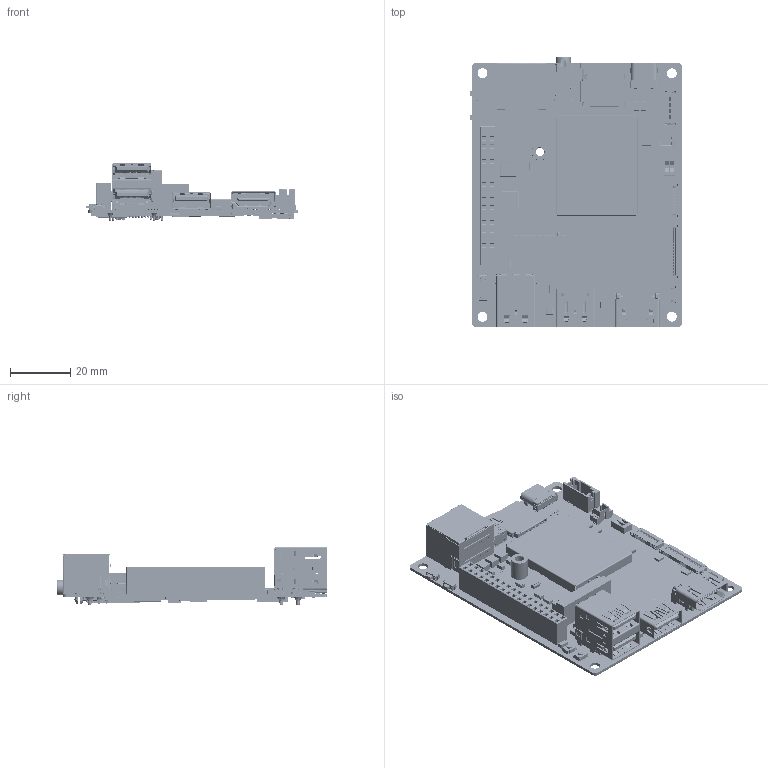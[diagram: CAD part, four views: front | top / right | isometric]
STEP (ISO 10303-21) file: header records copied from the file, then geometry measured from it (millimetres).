
FILE_DESCRIPTION(/* description */ (''),/* implementation_level */ '2;1');
FILE_NAME(/* name */ 'LattePanda IOTA Mainboard Simplified.step',/* time_stamp */ '2026-02-12T21:35:30-05:00',/* author */ (''),/* organization */ (''),/* preprocessor_version */ 'ST-DEVELOPER v20.1',/* originating_system */ 'Autodesk Translation Framework v14.24.0.0',/* authorisation */ '');
FILE_SCHEMA (('AUTOMOTIVE_DESIGN { 1 0 10303 214 3 1 1 }'));
Products named in the file (1): Document
Bounding box: 70.76 x 90 x 19.39 mm (x, y, z)
Surface area: 39761.1 mm2
Topology: 40 solids, 41 shells, 19702 faces, 57666 edges, 37352 vertices
Faces by surface type: plane 13998, cylinder 5073, bspline 399, torus 102, sphere 66, cone 64
Full cylindrical faces by diameter (mm): 0.237 x2, 0.28 x5, 0.292 x1, 0.3 x4, 0.338 x1, 0.4 x1, 0.45 x1, 0.46 x24, 0.469 x1, 0.483 x1, 0.5 x2, 0.516 x4, 0.53 x4, 0.55 x2, 0.583 x4, 0.594 x1, 0.6 x2, 0.66 x1, 0.661 x1, 0.7 x4, 0.788 x1, 0.8 x8, 0.85 x4, 1 x4, 1.016 x2, 1.068 x1, 1.1 x2, 1.118 x1, 1.12 x1, 1.3 x2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
Entity records: 676837 total; most frequent: CARTESIAN_POINT 145961, ORIENTED_EDGE 115254, DIRECTION 106161, EDGE_CURVE 57627, LINE 45207, VECTOR 45207, VERTEX_POINT 37370, AXIS2_PLACEMENT_3D 30477
